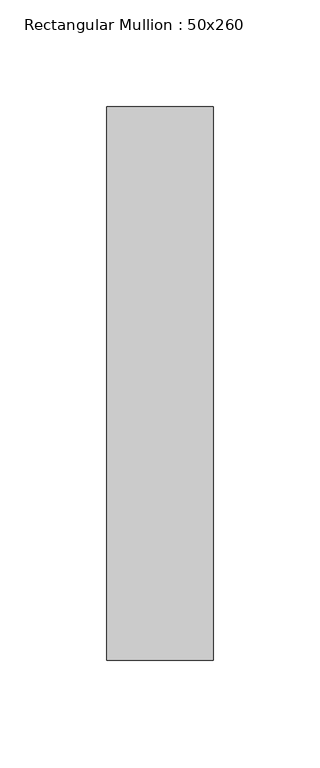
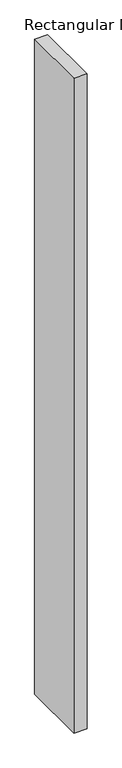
"""IFC4 building model written with IfcOpenShell, lengths in millimetres: member geometry, Rectangular Mullion : 50x260."""

from ifc_helpers import new_model, si_unit, frame, origin, place, context, project, spatial, polyline, outline, extrude, source, transform, mapped, element, save


def rectangular_mullion_50x260_5ce8c250(model_context):
    return source(origin(), model_context, "Body", "SweptSolid", [
        extrude(outline(polyline([(0.0, 130.0), (0.0, -130.0), (-50.0, -130.0), (-50.0, 130.0), (0.0, 130.0)])), frame((0.0, 0.0, -2650.0), z_axis=(0.0, 0.0, 1.0), x_axis=(1.0, 0.0, 0.0)), (0.0, 0.0, 1.0), 2650.0),
    ])


if __name__ == "__main__":
    model = new_model("IFC4")
    model_context = context("Model", 3, world=origin())
    ifc_project = project(units=[si_unit("LENGTHUNIT", "METRE", prefix="MILLI")], contexts=[model_context])
    site = spatial("IfcSite", under=ifc_project)
    building = spatial("IfcBuilding", under=site)
    placement = place(None, origin())
    rectangular_mullion_50x260_shape = rectangular_mullion_50x260_5ce8c250(model_context)
    element("IfcMember", 1, ObjectType="Rectangular Mullion : 50x260", at=placement, inside=building, context=model_context, shape_type="MappedRepresentation", body=[
        mapped(rectangular_mullion_50x260_shape, transform((0.0, 0.0, 0.0), x_axis=(1.0, 0.0, 0.0), y_axis=(0.0, 1.0, 0.0), z_axis=(0.0, 0.0, 1.0))),
    ])
    save(model, "model.ifc")
